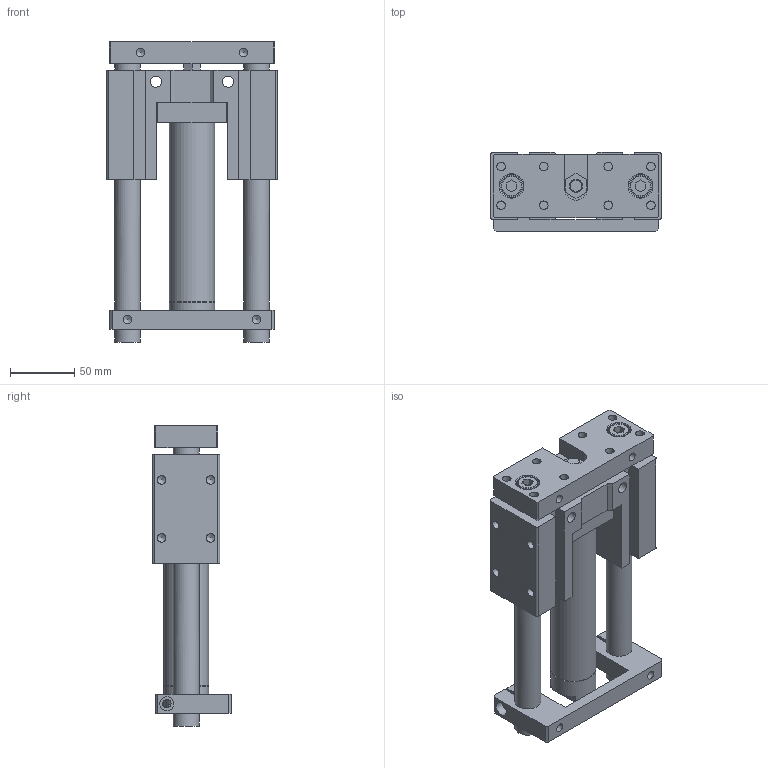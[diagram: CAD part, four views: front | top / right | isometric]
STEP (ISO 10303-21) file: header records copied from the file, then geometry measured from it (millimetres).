
FILE_DESCRIPTION((''),'2;1');
FILE_NAME('I:\3D電子目錄\氣缸\TMB(U)\TMB(U)\TMB(U)32\TMB(U)32x100.stp','2007-10-05T11:16:49',('Administrator'),(''),'Autodesk Inventor 11','Autodesk Inventor 11','');
FILE_SCHEMA(('AUTOMOTIVE_DESIGN { 1 0 10303 214 1 1 1 1 }'));
Length unit declared in the file: millimetre
Products named in the file (1): TMB(U)32
Bounding box: 132 x 61 x 233 mm (x, y, z)
Volume: 769049.8 mm3; surface area: 131198.2 mm2
Topology: 1 solids, 1 shells, 198 faces, 514 edges, 338 vertices
Faces by surface type: plane 117, bspline 41, cylinder 23, cone 15, torus 2
Full cylindrical faces by diameter (mm): 6.5 x2, 6.647 x6, 10 x1, 11 x1, 16 x2, 18 x2, 20 x2, 35 x2
Entity records: 6000 total; most frequent: CARTESIAN_POINT 1554, DIRECTION 850, ORIENTED_EDGE 842, EDGE_CURVE 421, EDGE_LOOP 320, VERTEX_POINT 313, VECTOR 300, LINE 300
